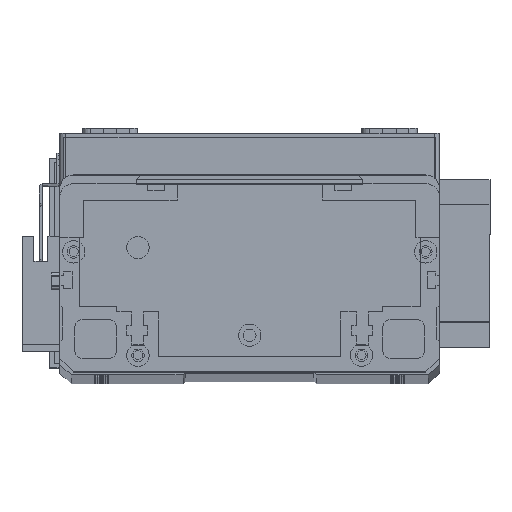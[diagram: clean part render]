
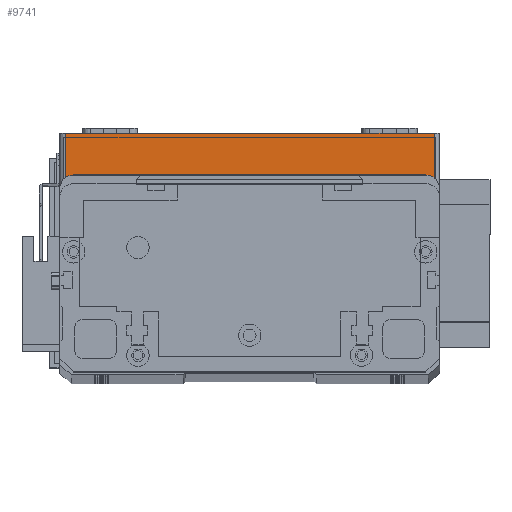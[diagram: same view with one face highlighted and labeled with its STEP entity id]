
A CAD part, top view. The second image highlights one B-rep face of the part: STEP entity #9741.
In plain terms, the highlighted planar face has unit normal (0, 0, 1) as drawn and (0, -1, 0) by its records, which use the part's own axes.
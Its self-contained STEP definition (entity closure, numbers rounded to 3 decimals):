
#381 = DIRECTION ( 'NONE',  ( 0., 0., 1. ) ) ;
#1047 = EDGE_CURVE ( 'NONE', #5044, #6026, #27856, .T. ) ;
#1777 = DIRECTION ( 'NONE',  ( 0., 0., -1. ) ) ;
#2508 = EDGE_CURVE ( 'NONE', #29831, #8781, #16845, .T. ) ;
#3032 = ORIENTED_EDGE ( 'NONE', *, *, #1047, .T. ) ;
#4918 = CARTESIAN_POINT ( 'NONE',  ( 134., 0., 19.5 ) ) ;
#5044 = VERTEX_POINT ( 'NONE', #21058 ) ;
#5313 = VECTOR ( 'NONE', #18730, 1000. ) ;
#5970 = LINE ( 'NONE', #17354, #24424 ) ;
#6026 = VERTEX_POINT ( 'NONE', #11991 ) ;
#8127 = DIRECTION ( 'NONE',  ( 1., 0., 0. ) ) ;
#8781 = VERTEX_POINT ( 'NONE', #21847 ) ;
#9741 = ADVANCED_FACE ( 'NONE', ( #21336 ), #16430, .F. ) ;
#10046 = VECTOR ( 'NONE', #1777, 1000. ) ;
#11969 = ORIENTED_EDGE ( 'NONE', *, *, #2508, .T. ) ;
#11991 = CARTESIAN_POINT ( 'NONE',  ( 2., 0., 0. ) ) ;
#14192 = DIRECTION ( 'NONE',  ( 0., 1., 0. ) ) ;
#14258 = EDGE_LOOP ( 'NONE', ( #17481, #3032, #19384, #11969 ) ) ;
#15584 = CARTESIAN_POINT ( 'NONE',  ( 2., 0., 19.5 ) ) ;
#16430 = PLANE ( 'NONE',  #21289 ) ;
#16660 = CARTESIAN_POINT ( 'NONE',  ( 134., 0., 0. ) ) ;
#16845 = LINE ( 'NONE', #4918, #5313 ) ;
#17354 = CARTESIAN_POINT ( 'NONE',  ( 0., 0., 0. ) ) ;
#17481 = ORIENTED_EDGE ( 'NONE', *, *, #20575, .F. ) ;
#18730 = DIRECTION ( 'NONE',  ( 0., 0., 1. ) ) ;
#18746 = CARTESIAN_POINT ( 'NONE',  ( 0., 0., 19.5 ) ) ;
#19384 = ORIENTED_EDGE ( 'NONE', *, *, #28272, .T. ) ;
#19657 = CARTESIAN_POINT ( 'NONE',  ( 0., 0., 19.5 ) ) ;
#20575 = EDGE_CURVE ( 'NONE', #5044, #8781, #23392, .T. ) ;
#21058 = CARTESIAN_POINT ( 'NONE',  ( 2., 0., 19.5 ) ) ;
#21289 = AXIS2_PLACEMENT_3D ( 'NONE', #18746, #14192, #381 ) ;
#21336 = FACE_OUTER_BOUND ( 'NONE', #14258, .T. ) ;
#21847 = CARTESIAN_POINT ( 'NONE',  ( 134., 0., 19.5 ) ) ;
#23392 = LINE ( 'NONE', #19657, #28824 ) ;
#24424 = VECTOR ( 'NONE', #28922, 1000. ) ;
#27856 = LINE ( 'NONE', #15584, #10046 ) ;
#28272 = EDGE_CURVE ( 'NONE', #6026, #29831, #5970, .T. ) ;
#28824 = VECTOR ( 'NONE', #8127, 1000. ) ;
#28922 = DIRECTION ( 'NONE',  ( 1., 0., 0. ) ) ;
#29831 = VERTEX_POINT ( 'NONE', #16660 ) ;
